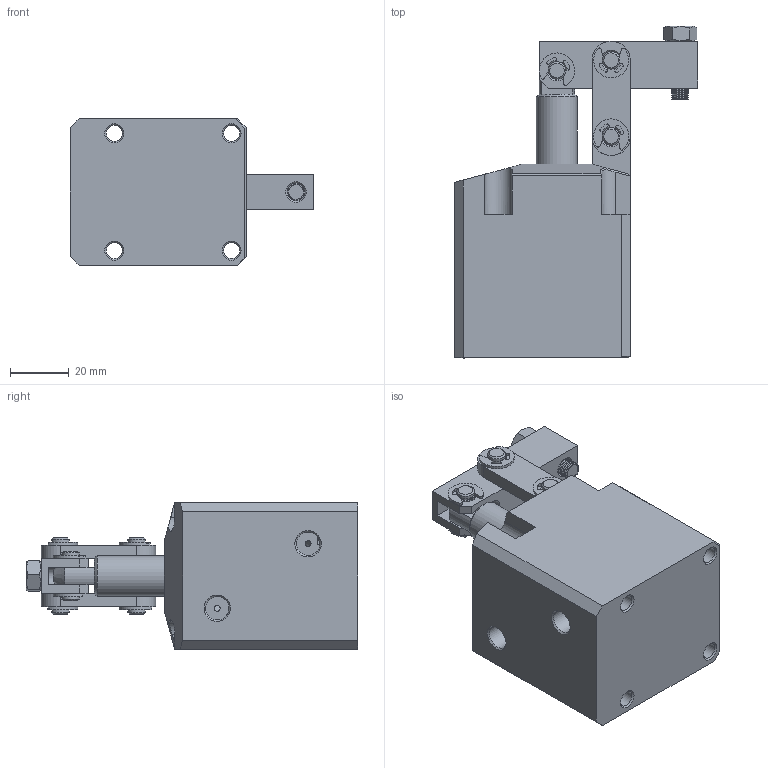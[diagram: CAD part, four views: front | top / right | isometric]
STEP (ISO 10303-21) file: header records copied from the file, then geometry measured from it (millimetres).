
FILE_DESCRIPTION(/* description */ ('STEP AP214'),/* implementation_level */ '2;1');
FILE_NAME(/* name */ 'D:\Vault_2016\Projekty\Clamptek\Hydraulic\CBLU\CBLU-30\STEP\CBLU-30.stp',/* time_stamp */ '2021-05-06T12:05:04+02:00',/* author */ ('user'),/* organization */ (''),/* preprocessor_version */ 'ST-DEVELOPER v18.1',/* originating_system */ 'Autodesk Inventor 2021',/* authorisation */ '');
FILE_SCHEMA (('AUTOMOTIVE_DESIGN { 1 0 10303 214 3 1 1 }'));
Length unit declared in the file: millimetre
Products named in the file (10): CBLU-30; ±¾ÌåC_1_3_1; 30Á¬¸Ë_2; hex nuts, style 1-grades ab gb_GB_FASTENER_NUT_SNAB1 M6-N_1; hexagon socket head cap screws gb_GB_FASTENER_SCREWS_HSHCS M6X25-S_1_
1; ³¤ÏúÖá_1_1; 30¶ÌÏúÖá_2; 30»îÈû¸Ë_1_5_1; 30Ñ¹°å_1; e rings gb_GB_CONNECTING_PIECE_RINGS_HR 6_1_1
Assembly tree (16 placements, depth 2):
  CBLU-30
    ±¾ÌåC_1_3_1
    30Á¬¸Ë_2  x2
    hex nuts, style 1-grades ab gb_GB_FASTENER_NUT_SNAB1 M6-N_1
    hexagon socket head cap screws gb_GB_FASTENER_SCREWS_HSHCS M6X25-S_1_
1
    ³¤ÏúÖá_1_1  x2
    e rings gb_GB_CONNECTING_PIECE_RINGS_HR 6_1_1  x6
    30¶ÌÏúÖá_2
    30»îÈû¸Ë_1_5_1
    30Ñ¹°å_1
Bounding box: 83 x 113.2 x 50 mm (x, y, z)
Volume: 185825.4 mm3; surface area: 45771 mm2
Topology: 17 solids, 17 shells, 445 faces, 1130 edges, 736 vertices
Faces by surface type: cylinder 161, plane 156, cone 120, bspline 8
Full cylindrical faces by diameter (mm): 2 x2, 2.5 x1, 4.9 x3, 4.917 x1, 5 x3, 5.5 x4, 6 x56, 8 x2, 14 x2, 30 x2, 36 x1, 37 x1
Entity records: 10922 total; most frequent: CARTESIAN_POINT 2422, DIRECTION 1824, ORIENTED_EDGE 1622, EDGE_CURVE 811, AXIS2_PLACEMENT_3D 716, VERTEX_POINT 524, LINE 392, VECTOR 392
